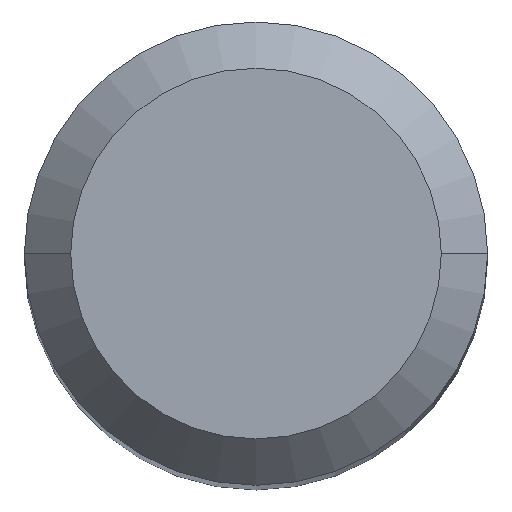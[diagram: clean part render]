
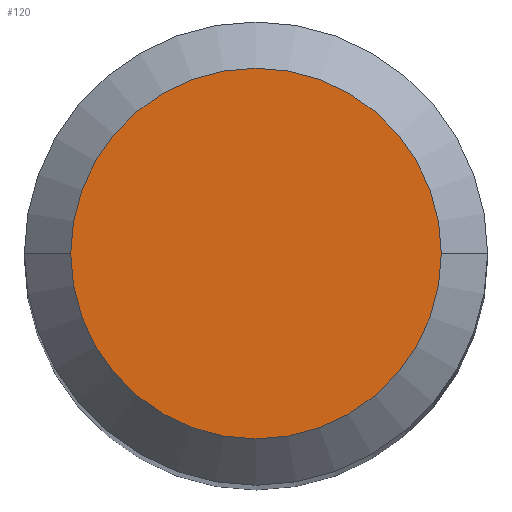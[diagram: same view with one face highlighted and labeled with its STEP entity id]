
A CAD part, top view. The second image highlights one B-rep face of the part: STEP entity #120.
In plain terms, the highlighted planar face has unit normal (0, 0, 1).
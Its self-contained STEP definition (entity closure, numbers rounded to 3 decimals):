
#59 = EDGE_CURVE ( 'NONE', #124, #416, #150, .T. ) ;
#118 = CIRCLE ( 'NONE', #545, 2.4 ) ;
#120 = ADVANCED_FACE ( 'NONE', ( #187 ), #384, .T. ) ;
#124 = VERTEX_POINT ( 'NONE', #558 ) ;
#150 = CIRCLE ( 'NONE', #310, 2.4 ) ;
#166 = DIRECTION ( 'NONE',  ( 1., 0., 0. ) ) ;
#178 = CARTESIAN_POINT ( 'NONE',  ( 0., 0., 0. ) ) ;
#179 = AXIS2_PLACEMENT_3D ( 'NONE', #239, #562, #166 ) ;
#187 = FACE_OUTER_BOUND ( 'NONE', #505, .T. ) ;
#239 = CARTESIAN_POINT ( 'NONE',  ( 0., 2.4, 0. ) ) ;
#306 = ORIENTED_EDGE ( 'NONE', *, *, #375, .F. ) ;
#310 = AXIS2_PLACEMENT_3D ( 'NONE', #346, #395, #571 ) ;
#326 = DIRECTION ( 'NONE',  ( -1., 0., 0. ) ) ;
#346 = CARTESIAN_POINT ( 'NONE',  ( 0., 0., 0. ) ) ;
#375 = EDGE_CURVE ( 'NONE', #416, #124, #118, .T. ) ;
#384 = PLANE ( 'NONE',  #179 ) ;
#395 = DIRECTION ( 'NONE',  ( 0., 0., -1. ) ) ;
#397 = CARTESIAN_POINT ( 'NONE',  ( -2.4, 0., 0. ) ) ;
#416 = VERTEX_POINT ( 'NONE', #397 ) ;
#499 = DIRECTION ( 'NONE',  ( 0., 0., -1. ) ) ;
#505 = EDGE_LOOP ( 'NONE', ( #306, #591 ) ) ;
#545 = AXIS2_PLACEMENT_3D ( 'NONE', #178, #499, #326 ) ;
#558 = CARTESIAN_POINT ( 'NONE',  ( 2.4, 0., 0. ) ) ;
#562 = DIRECTION ( 'NONE',  ( 0., 0., 1. ) ) ;
#571 = DIRECTION ( 'NONE',  ( -1., 0., 0. ) ) ;
#591 = ORIENTED_EDGE ( 'NONE', *, *, #59, .F. ) ;
